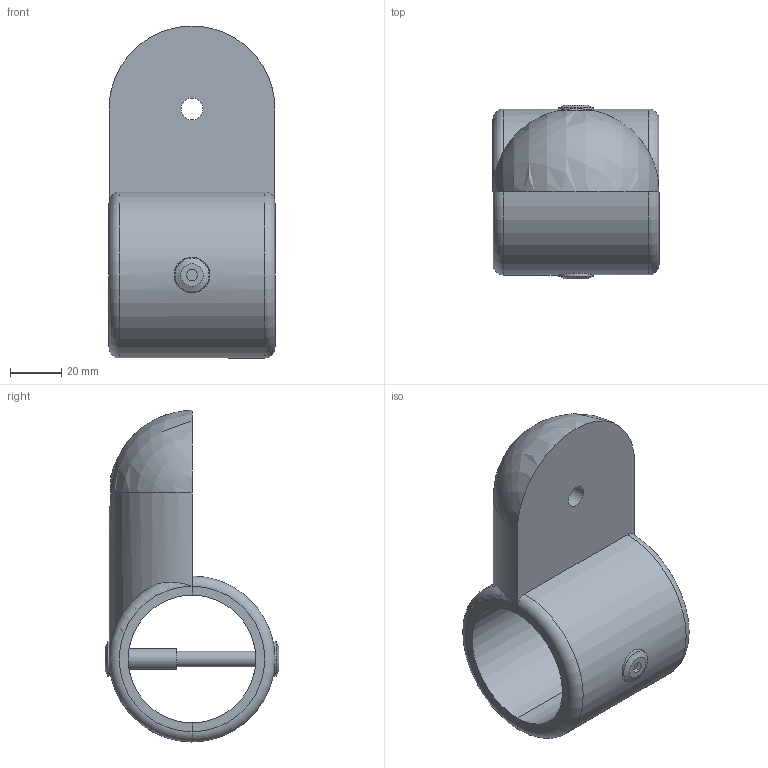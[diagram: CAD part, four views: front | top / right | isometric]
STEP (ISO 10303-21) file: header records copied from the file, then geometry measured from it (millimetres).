
FILE_DESCRIPTION(/* description */ (''),/* implementation_level */ '2;1');
FILE_NAME(/* name */ 'C:\Users\Callum\The Trustee for INKSTONE UNIT TRUST\GRP Australia - Documents\8 Drawings\Handrails\3D Models\Handrail Fittings STEP\MH3 - FLEX VAR Assembly.stp',/* time_stamp */ '2022-09-15T13:39:06+10:00',/* author */ ('Callum'),/* organization */ (''),/* preprocessor_version */ 'ST-DEVELOPER v18.1',/* originating_system */ 'Autodesk Inventor 2022',/* authorisation */ '');
FILE_SCHEMA (('AUTOMOTIVE_DESIGN { 1 0 10303 214 3 1 1 }'));
Length unit declared in the file: millimetre
Products named in the file (6): MH3 - FLEX VAR Assembly; MH3 - FLEX VAR-1; MH3 - FLEX VAR-2; MHR M6 BARREL NUT & SET SCREW; M6x8 Barrel Nut; M6x50 Soc Head Screw
Assembly tree (5 placements, depth 3):
  MH3 - FLEX VAR Assembly
    MH3 - FLEX VAR-1
    MH3 - FLEX VAR-2
    MHR M6 BARREL NUT & SET SCREW
      M6x8 Barrel Nut
      M6x50 Soc Head Screw
Bounding box: 65 x 68 x 130 mm (x, y, z)
Volume: 184181 mm3; surface area: 40616.4 mm2
Topology: 4 solids, 4 shells, 55 faces, 127 edges, 84 vertices
Faces by surface type: plane 32, cylinder 14, torus 4, cone 2, bspline 2, sphere 1
Full cylindrical faces by diameter (mm): 5 x1, 6 x1, 8 x1, 8.5 x3, 14 x3
Entity records: 1982 total; most frequent: CARTESIAN_POINT 504, DIRECTION 284, ORIENTED_EDGE 250, EDGE_CURVE 125, AXIS2_PLACEMENT_3D 110, VERTEX_POINT 84, EDGE_LOOP 67, LINE 64
